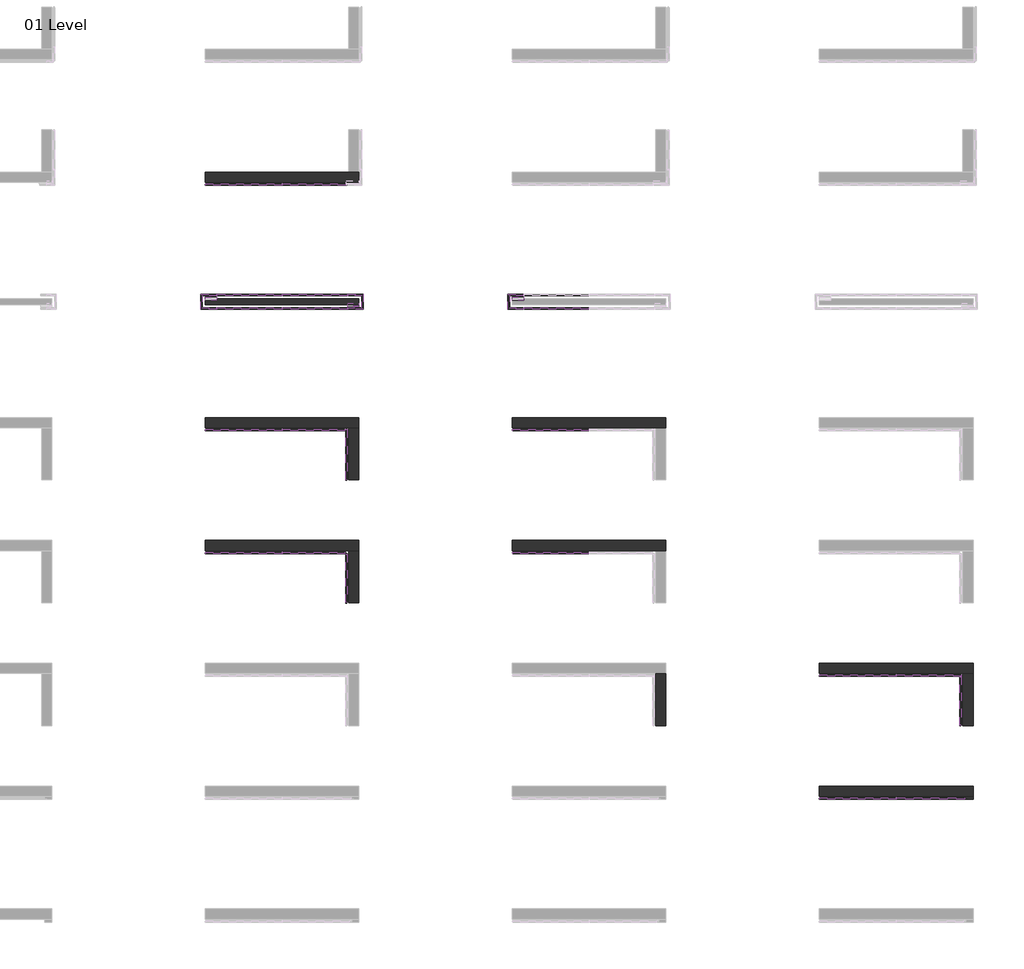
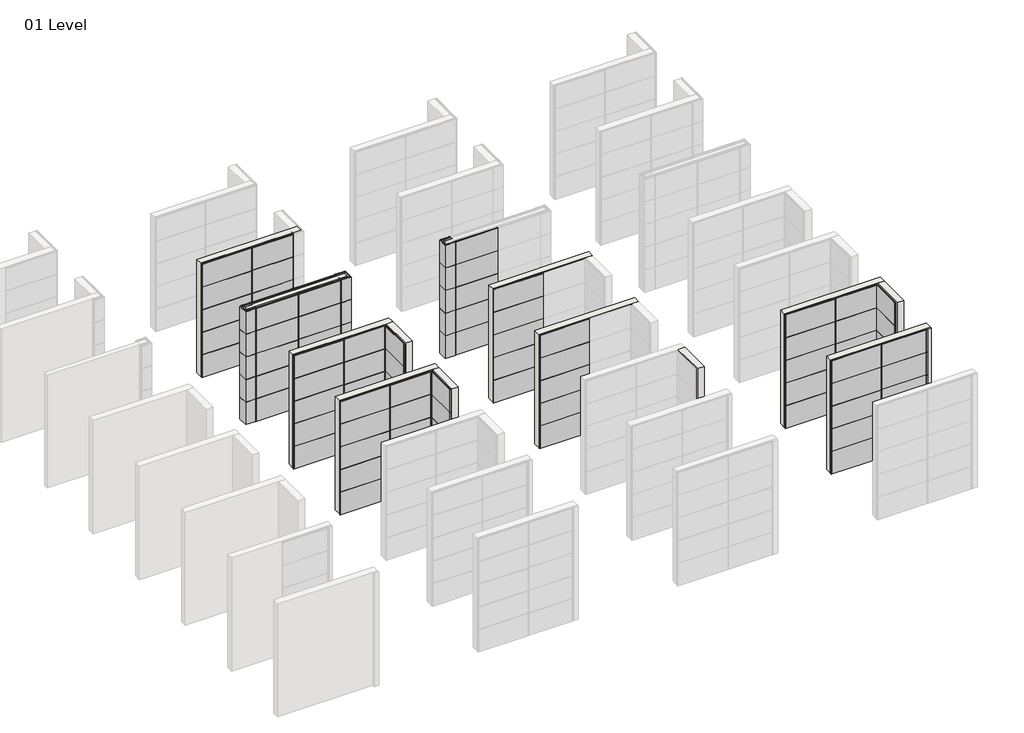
# One storey, part 3 of 9: 131 plates, 13 walls.
"""IFC4 building model written with IfcOpenShell, lengths in millimetres."""

from ifc_helpers import new_model, si_unit, frame, origin, origin_with_axes, place, context, project, spatial, polyline, outline, extrude, faceted_brep, transform, mapped, element, save
from components import plate_a6211809, plate_7b624472, plate_c233103a, plate_79a8b994, plate_4e651b4e, plate_a0341565, plate_0904af44, plate_7be3f5e4, plate_62c4d9ae, plate_5df4ee21, plate_b69234bf, plate_99067047, plate_b28a252d, plate_5372a68f, empty_system_panel_empty_90a12fe6

model = new_model("IFC4")

# Units and contexts
model_context = context("Model", 3, world=origin())
ifc_project = project(units=[si_unit("LENGTHUNIT", "METRE", prefix="MILLI")], contexts=[model_context])

# Site, building, storey
site = spatial("IfcSite", under=ifc_project)
building = spatial("IfcBuilding", under=site)
storey = spatial("IfcBuildingStorey", under=building, Name="01 Level", Elevation=0.0)

# Plates
placement = place(None, origin())
plate_shape = plate_a6211809(model_context)
element("IfcPlate", 1, ObjectType="Trimo_Qbiss Screen_Normal Panel-HORIZONTAL : HR - B-F", at=placement, inside=storey, context=model_context, shape_type="MappedRepresentation", body=[
    mapped(plate_shape, transform((-27452.2237135, -3083.2713317, 0.0), x_axis=(-1.0, 0.0, 0.0), y_axis=(0.0, -1.0, 0.0), z_axis=(0.0, 0.0, 1.0))),
])
element("IfcPlate", 2, ObjectType="Trimo_Qbiss Screen_Normal Panel-HORIZONTAL : HR - B-F", at=placement, inside=storey, context=model_context, shape_type="MappedRepresentation", body=[
    mapped(plate_shape, transform((-27452.2237135, -3083.2713317, 4800.0), x_axis=(-1.0, 0.0, 0.0), y_axis=(0.0, -1.0, 0.0), z_axis=(0.0, 0.0, 1.0))),
])
element("IfcPlate", 3, ObjectType="Trimo_Qbiss Screen_Normal Panel-HORIZONTAL : HR - B-F", at=placement, inside=storey, context=model_context, shape_type="MappedRepresentation", body=[
    mapped(plate_shape, transform((-27452.2237135, -3083.2713317, 2400.0), x_axis=(-1.0, 0.0, 0.0), y_axis=(0.0, -1.0, 0.0), z_axis=(0.0, 0.0, 1.0))),
])
element("IfcPlate", 4, ObjectType="Trimo_Qbiss Screen_Normal Panel-HORIZONTAL : HR - B-F", at=placement, inside=storey, context=model_context, shape_type="MappedRepresentation", body=[
    mapped(plate_shape, transform((-27452.2237135, -3083.2713317, 3600.0), x_axis=(-1.0, 0.0, 0.0), y_axis=(0.0, -1.0, 0.0), z_axis=(0.0, 0.0, 1.0))),
])
element("IfcPlate", 5, ObjectType="Trimo_Qbiss Screen_Normal Panel-HORIZONTAL : HR - B-F", at=placement, inside=storey, context=model_context, shape_type="MappedRepresentation", body=[
    mapped(plate_shape, transform((-27452.2237135, -3083.2713317, 1200.0), x_axis=(-1.0, 0.0, 0.0), y_axis=(0.0, -1.0, 0.0), z_axis=(0.0, 0.0, 1.0))),
])
element("IfcPlate", 6, ObjectType="Trimo_Qbiss Screen_Normal Panel-HORIZONTAL : HR - B-F", at=placement, inside=storey, context=model_context, shape_type="MappedRepresentation", body=[
    mapped(plate_shape, transform((-27452.2237135, -11083.2713317, 0.0), x_axis=(-1.0, 0.0, 0.0), y_axis=(0.0, -1.0, 0.0), z_axis=(0.0, 0.0, 1.0))),
])
element("IfcPlate", 7, ObjectType="Trimo_Qbiss Screen_Normal Panel-HORIZONTAL : HR - B-F", at=placement, inside=storey, context=model_context, shape_type="MappedRepresentation", body=[
    mapped(plate_shape, transform((-27452.2237135, -11083.2713317, 4800.0), x_axis=(-1.0, 0.0, 0.0), y_axis=(0.0, -1.0, 0.0), z_axis=(0.0, 0.0, 1.0))),
])
element("IfcPlate", 8, ObjectType="Trimo_Qbiss Screen_Normal Panel-HORIZONTAL : HR - B-F", at=placement, inside=storey, context=model_context, shape_type="MappedRepresentation", body=[
    mapped(plate_shape, transform((-27452.2237135, -11083.2713317, 2400.0), x_axis=(-1.0, 0.0, 0.0), y_axis=(0.0, -1.0, 0.0), z_axis=(0.0, 0.0, 1.0))),
])
element("IfcPlate", 9, ObjectType="Trimo_Qbiss Screen_Normal Panel-HORIZONTAL : HR - B-F", at=placement, inside=storey, context=model_context, shape_type="MappedRepresentation", body=[
    mapped(plate_shape, transform((-27452.2237135, -11083.2713317, 3600.0), x_axis=(-1.0, 0.0, 0.0), y_axis=(0.0, -1.0, 0.0), z_axis=(0.0, 0.0, 1.0))),
])
element("IfcPlate", 10, ObjectType="Trimo_Qbiss Screen_Normal Panel-HORIZONTAL : HR - B-F", at=placement, inside=storey, context=model_context, shape_type="MappedRepresentation", body=[
    mapped(plate_shape, transform((-27452.2237135, -11083.2713317, 1200.0), x_axis=(-1.0, 0.0, 0.0), y_axis=(0.0, -1.0, 0.0), z_axis=(0.0, 0.0, 1.0))),
])
element("IfcPlate", 11, ObjectType="Trimo_Qbiss Screen_Normal Panel-HORIZONTAL : HR - B-F", at=placement, inside=storey, context=model_context, shape_type="MappedRepresentation", body=[
    mapped(plate_shape, transform((-27452.2237135, -15083.2713317, 0.0), x_axis=(-1.0, 0.0, 0.0), y_axis=(0.0, -1.0, 0.0), z_axis=(0.0, 0.0, 1.0))),
])
element("IfcPlate", 12, ObjectType="Trimo_Qbiss Screen_Normal Panel-HORIZONTAL : HR - B-F", at=placement, inside=storey, context=model_context, shape_type="MappedRepresentation", body=[
    mapped(plate_shape, transform((-27452.2237135, -15083.2713317, 4800.0), x_axis=(-1.0, 0.0, 0.0), y_axis=(0.0, -1.0, 0.0), z_axis=(0.0, 0.0, 1.0))),
])
element("IfcPlate", 13, ObjectType="Trimo_Qbiss Screen_Normal Panel-HORIZONTAL : HR - B-F", at=placement, inside=storey, context=model_context, shape_type="MappedRepresentation", body=[
    mapped(plate_shape, transform((-27452.2237135, -15083.2713317, 2400.0), x_axis=(-1.0, 0.0, 0.0), y_axis=(0.0, -1.0, 0.0), z_axis=(0.0, 0.0, 1.0))),
])
element("IfcPlate", 14, ObjectType="Trimo_Qbiss Screen_Normal Panel-HORIZONTAL : HR - B-F", at=placement, inside=storey, context=model_context, shape_type="MappedRepresentation", body=[
    mapped(plate_shape, transform((-27452.2237135, -15083.2713317, 3600.0), x_axis=(-1.0, 0.0, 0.0), y_axis=(0.0, -1.0, 0.0), z_axis=(0.0, 0.0, 1.0))),
])
element("IfcPlate", 15, ObjectType="Trimo_Qbiss Screen_Normal Panel-HORIZONTAL : HR - B-F", at=placement, inside=storey, context=model_context, shape_type="MappedRepresentation", body=[
    mapped(plate_shape, transform((-27452.2237135, -15083.2713317, 1200.0), x_axis=(-1.0, 0.0, 0.0), y_axis=(0.0, -1.0, 0.0), z_axis=(0.0, 0.0, 1.0))),
])
plate_2_shape = plate_7b624472(model_context)
element("IfcPlate", 16, ObjectType="Trimo_Qbiss Screen_Normal Panel-HORIZONTAL : HR - B-F", at=placement, inside=storey, context=model_context, shape_type="MappedRepresentation", body=[
    mapped(plate_2_shape, transform((-27268.4737135, -7083.2713317, 0.0), x_axis=(-1.0, 0.0, 0.0), y_axis=(0.0, -1.0, 0.0), z_axis=(0.0, 0.0, 1.0))),
])
element("IfcPlate", 17, ObjectType="Trimo_Qbiss Screen_Normal Panel-HORIZONTAL : HR - B-F", at=placement, inside=storey, context=model_context, shape_type="MappedRepresentation", body=[
    mapped(plate_2_shape, transform((-27268.4737135, -7083.2713317, 4800.0), x_axis=(-1.0, 0.0, 0.0), y_axis=(0.0, -1.0, 0.0), z_axis=(0.0, 0.0, 1.0))),
])
element("IfcPlate", 18, ObjectType="Trimo_Qbiss Screen_Normal Panel-HORIZONTAL : HR - B-F", at=placement, inside=storey, context=model_context, shape_type="MappedRepresentation", body=[
    mapped(plate_2_shape, transform((-27268.4737135, -7083.2713317, 2400.0), x_axis=(-1.0, 0.0, 0.0), y_axis=(0.0, -1.0, 0.0), z_axis=(0.0, 0.0, 1.0))),
])
element("IfcPlate", 19, ObjectType="Trimo_Qbiss Screen_Normal Panel-HORIZONTAL : HR - B-F", at=placement, inside=storey, context=model_context, shape_type="MappedRepresentation", body=[
    mapped(plate_2_shape, transform((-27268.4737135, -7083.2713317, 3600.0), x_axis=(-1.0, 0.0, 0.0), y_axis=(0.0, -1.0, 0.0), z_axis=(0.0, 0.0, 1.0))),
])
element("IfcPlate", 20, ObjectType="Trimo_Qbiss Screen_Normal Panel-HORIZONTAL : HR - B-F", at=placement, inside=storey, context=model_context, shape_type="MappedRepresentation", body=[
    mapped(plate_2_shape, transform((-27268.4737135, -7083.2713317, 1200.0), x_axis=(-1.0, 0.0, 0.0), y_axis=(0.0, -1.0, 0.0), z_axis=(0.0, 0.0, 1.0))),
])
element("IfcPlate", 21, ObjectType="Trimo_Qbiss Screen_Normal Panel-HORIZONTAL : HR - B-F", at=placement, inside=storey, context=model_context, shape_type="MappedRepresentation", body=[
    mapped(plate_2_shape, transform((-25135.9737135, -7083.2713317, 0.0), x_axis=(-1.0, 0.0, 0.0), y_axis=(0.0, -1.0, 0.0), z_axis=(0.0, 0.0, 1.0))),
])
element("IfcPlate", 22, ObjectType="Trimo_Qbiss Screen_Normal Panel-HORIZONTAL : HR - B-F", at=placement, inside=storey, context=model_context, shape_type="MappedRepresentation", body=[
    mapped(plate_2_shape, transform((-25135.9737135, -7083.2713317, 1200.0), x_axis=(-1.0, 0.0, 0.0), y_axis=(0.0, -1.0, 0.0), z_axis=(0.0, 0.0, 1.0))),
])
element("IfcPlate", 23, ObjectType="Trimo_Qbiss Screen_Normal Panel-HORIZONTAL : HR - B-F", at=placement, inside=storey, context=model_context, shape_type="MappedRepresentation", body=[
    mapped(plate_2_shape, transform((-25135.9737135, -7083.2713317, 2400.0), x_axis=(-1.0, 0.0, 0.0), y_axis=(0.0, -1.0, 0.0), z_axis=(0.0, 0.0, 1.0))),
])
element("IfcPlate", 24, ObjectType="Trimo_Qbiss Screen_Normal Panel-HORIZONTAL : HR - B-F", at=placement, inside=storey, context=model_context, shape_type="MappedRepresentation", body=[
    mapped(plate_2_shape, transform((-25135.9737135, -7083.2713317, 3600.0), x_axis=(-1.0, 0.0, 0.0), y_axis=(0.0, -1.0, 0.0), z_axis=(0.0, 0.0, 1.0))),
])
element("IfcPlate", 25, ObjectType="Trimo_Qbiss Screen_Normal Panel-HORIZONTAL : HR - B-F", at=placement, inside=storey, context=model_context, shape_type="MappedRepresentation", body=[
    mapped(plate_2_shape, transform((-25135.9737135, -7083.2713317, 4800.0), x_axis=(-1.0, 0.0, 0.0), y_axis=(0.0, -1.0, 0.0), z_axis=(0.0, 0.0, 1.0))),
])
element("IfcPlate", 26, ObjectType="Trimo_Qbiss Screen_Normal Panel-HORIZONTAL : HR - B-F", at=placement, inside=storey, context=model_context, shape_type="MappedRepresentation", body=[
    mapped(plate_2_shape, transform((-27268.4737135, -6883.2713317, 0.0), x_axis=(1.0, 0.0, 0.0), y_axis=(0.0, 1.0, 0.0), z_axis=(0.0, 0.0, 1.0))),
])
element("IfcPlate", 27, ObjectType="Trimo_Qbiss Screen_Normal Panel-HORIZONTAL : HR - B-F", at=placement, inside=storey, context=model_context, shape_type="MappedRepresentation", body=[
    mapped(plate_2_shape, transform((-27268.4737135, -6883.2713317, 1200.0), x_axis=(1.0, 0.0, 0.0), y_axis=(0.0, 1.0, 0.0), z_axis=(0.0, 0.0, 1.0))),
])
element("IfcPlate", 28, ObjectType="Trimo_Qbiss Screen_Normal Panel-HORIZONTAL : HR - B-F", at=placement, inside=storey, context=model_context, shape_type="MappedRepresentation", body=[
    mapped(plate_2_shape, transform((-27268.4737135, -6883.2713317, 2400.0), x_axis=(1.0, 0.0, 0.0), y_axis=(0.0, 1.0, 0.0), z_axis=(0.0, 0.0, 1.0))),
])
element("IfcPlate", 29, ObjectType="Trimo_Qbiss Screen_Normal Panel-HORIZONTAL : HR - B-F", at=placement, inside=storey, context=model_context, shape_type="MappedRepresentation", body=[
    mapped(plate_2_shape, transform((-27268.4737135, -6883.2713317, 3600.0), x_axis=(1.0, 0.0, 0.0), y_axis=(0.0, 1.0, 0.0), z_axis=(0.0, 0.0, 1.0))),
])
element("IfcPlate", 30, ObjectType="Trimo_Qbiss Screen_Normal Panel-HORIZONTAL : HR - B-F", at=placement, inside=storey, context=model_context, shape_type="MappedRepresentation", body=[
    mapped(plate_2_shape, transform((-27268.4737135, -6883.2713317, 4800.0), x_axis=(1.0, 0.0, 0.0), y_axis=(0.0, 1.0, 0.0), z_axis=(0.0, 0.0, 1.0))),
])
element("IfcPlate", 31, ObjectType="Trimo_Qbiss Screen_Normal Panel-HORIZONTAL : HR - B-F", at=placement, inside=storey, context=model_context, shape_type="MappedRepresentation", body=[
    mapped(plate_2_shape, transform((-25135.9737135, -6883.2713317, 0.0), x_axis=(1.0, 0.0, 0.0), y_axis=(0.0, 1.0, 0.0), z_axis=(0.0, 0.0, 1.0))),
])
element("IfcPlate", 32, ObjectType="Trimo_Qbiss Screen_Normal Panel-HORIZONTAL : HR - B-F", at=placement, inside=storey, context=model_context, shape_type="MappedRepresentation", body=[
    mapped(plate_2_shape, transform((-25135.9737135, -6883.2713317, 1200.0), x_axis=(1.0, 0.0, 0.0), y_axis=(0.0, 1.0, 0.0), z_axis=(0.0, 0.0, 1.0))),
])
element("IfcPlate", 33, ObjectType="Trimo_Qbiss Screen_Normal Panel-HORIZONTAL : HR - B-F", at=placement, inside=storey, context=model_context, shape_type="MappedRepresentation", body=[
    mapped(plate_2_shape, transform((-25135.9737135, -6883.2713317, 2400.0), x_axis=(1.0, 0.0, 0.0), y_axis=(0.0, 1.0, 0.0), z_axis=(0.0, 0.0, 1.0))),
])
element("IfcPlate", 34, ObjectType="Trimo_Qbiss Screen_Normal Panel-HORIZONTAL : HR - B-F", at=placement, inside=storey, context=model_context, shape_type="MappedRepresentation", body=[
    mapped(plate_2_shape, transform((-25135.9737135, -6883.2713317, 3600.0), x_axis=(1.0, 0.0, 0.0), y_axis=(0.0, 1.0, 0.0), z_axis=(0.0, 0.0, 1.0))),
])
element("IfcPlate", 35, ObjectType="Trimo_Qbiss Screen_Normal Panel-HORIZONTAL : HR - B-F", at=placement, inside=storey, context=model_context, shape_type="MappedRepresentation", body=[
    mapped(plate_2_shape, transform((-25135.9737135, -6883.2713317, 4800.0), x_axis=(1.0, 0.0, 0.0), y_axis=(0.0, 1.0, 0.0), z_axis=(0.0, 0.0, 1.0))),
])
plate_3_shape = plate_c233103a(model_context)
element("IfcPlate", 36, ObjectType="Trimo_Qbiss Screen_Normal Panel-HORIZONTAL : HR - B-F", at=placement, inside=storey, context=model_context, shape_type="MappedRepresentation", body=[
    mapped(plate_3_shape, transform((-25117.2237135, -11083.2713317, 0.0), x_axis=(-1.0, 0.0, 0.0), y_axis=(0.0, -1.0, 0.0), z_axis=(0.0, 0.0, 1.0))),
])
element("IfcPlate", 37, ObjectType="Trimo_Qbiss Screen_Normal Panel-HORIZONTAL : HR - B-F", at=placement, inside=storey, context=model_context, shape_type="MappedRepresentation", body=[
    mapped(plate_3_shape, transform((-25117.2237135, -11083.2713317, 4800.0), x_axis=(-1.0, 0.0, 0.0), y_axis=(0.0, -1.0, 0.0), z_axis=(0.0, 0.0, 1.0))),
])
element("IfcPlate", 38, ObjectType="Trimo_Qbiss Screen_Normal Panel-HORIZONTAL : HR - B-F", at=placement, inside=storey, context=model_context, shape_type="MappedRepresentation", body=[
    mapped(plate_3_shape, transform((-25117.2237135, -11083.2713317, 2400.0), x_axis=(-1.0, 0.0, 0.0), y_axis=(0.0, -1.0, 0.0), z_axis=(0.0, 0.0, 1.0))),
])
element("IfcPlate", 39, ObjectType="Trimo_Qbiss Screen_Normal Panel-HORIZONTAL : HR - B-F", at=placement, inside=storey, context=model_context, shape_type="MappedRepresentation", body=[
    mapped(plate_3_shape, transform((-25117.2237135, -11083.2713317, 3600.0), x_axis=(-1.0, 0.0, 0.0), y_axis=(0.0, -1.0, 0.0), z_axis=(0.0, 0.0, 1.0))),
])
element("IfcPlate", 40, ObjectType="Trimo_Qbiss Screen_Normal Panel-HORIZONTAL : HR - B-F", at=placement, inside=storey, context=model_context, shape_type="MappedRepresentation", body=[
    mapped(plate_3_shape, transform((-25117.2237135, -11083.2713317, 1200.0), x_axis=(-1.0, 0.0, 0.0), y_axis=(0.0, -1.0, 0.0), z_axis=(0.0, 0.0, 1.0))),
])
element("IfcPlate", 41, ObjectType="Trimo_Qbiss Screen_Normal Panel-HORIZONTAL : HR - B-F", at=placement, inside=storey, context=model_context, shape_type="MappedRepresentation", body=[
    mapped(plate_3_shape, transform((-25117.2237135, -15083.2713317, 0.0), x_axis=(-1.0, 0.0, 0.0), y_axis=(0.0, -1.0, 0.0), z_axis=(0.0, 0.0, 1.0))),
])
element("IfcPlate", 42, ObjectType="Trimo_Qbiss Screen_Normal Panel-HORIZONTAL : HR - B-F", at=placement, inside=storey, context=model_context, shape_type="MappedRepresentation", body=[
    mapped(plate_3_shape, transform((-25117.2237135, -15083.2713317, 4800.0), x_axis=(-1.0, 0.0, 0.0), y_axis=(0.0, -1.0, 0.0), z_axis=(0.0, 0.0, 1.0))),
])
element("IfcPlate", 43, ObjectType="Trimo_Qbiss Screen_Normal Panel-HORIZONTAL : HR - B-F", at=placement, inside=storey, context=model_context, shape_type="MappedRepresentation", body=[
    mapped(plate_3_shape, transform((-25117.2237135, -15083.2713317, 2400.0), x_axis=(-1.0, 0.0, 0.0), y_axis=(0.0, -1.0, 0.0), z_axis=(0.0, 0.0, 1.0))),
])
element("IfcPlate", 44, ObjectType="Trimo_Qbiss Screen_Normal Panel-HORIZONTAL : HR - B-F", at=placement, inside=storey, context=model_context, shape_type="MappedRepresentation", body=[
    mapped(plate_3_shape, transform((-25117.2237135, -15083.2713317, 3600.0), x_axis=(-1.0, 0.0, 0.0), y_axis=(0.0, -1.0, 0.0), z_axis=(0.0, 0.0, 1.0))),
])
element("IfcPlate", 45, ObjectType="Trimo_Qbiss Screen_Normal Panel-HORIZONTAL : HR - B-F", at=placement, inside=storey, context=model_context, shape_type="MappedRepresentation", body=[
    mapped(plate_3_shape, transform((-25117.2237135, -15083.2713317, 1200.0), x_axis=(-1.0, 0.0, 0.0), y_axis=(0.0, -1.0, 0.0), z_axis=(0.0, 0.0, 1.0))),
])
plate_4_shape = plate_79a8b994(model_context)
element("IfcPlate", 46, ObjectType="Trimo_Qbiss Screen_Normal Panel-HORIZONTAL : HR - B-F", at=placement, inside=storey, context=model_context, shape_type="MappedRepresentation", body=[
    mapped(plate_4_shape, transform((-24032.2237135, -11933.2713317, 0.0), x_axis=(0.0, 1.0, 0.0), y_axis=(-1.0, 0.0, 0.0), z_axis=(0.0, 0.0, 1.0))),
])
element("IfcPlate", 47, ObjectType="Trimo_Qbiss Screen_Normal Panel-HORIZONTAL : HR - B-F", at=placement, inside=storey, context=model_context, shape_type="MappedRepresentation", body=[
    mapped(plate_4_shape, transform((-24032.2237135, -11933.2713317, 4800.0), x_axis=(0.0, 1.0, 0.0), y_axis=(-1.0, 0.0, 0.0), z_axis=(0.0, 0.0, 1.0))),
])
element("IfcPlate", 48, ObjectType="Trimo_Qbiss Screen_Normal Panel-HORIZONTAL : HR - B-F", at=placement, inside=storey, context=model_context, shape_type="MappedRepresentation", body=[
    mapped(plate_4_shape, transform((-24032.2237135, -11933.2713317, 2400.0), x_axis=(0.0, 1.0, 0.0), y_axis=(-1.0, 0.0, 0.0), z_axis=(0.0, 0.0, 1.0))),
])
element("IfcPlate", 49, ObjectType="Trimo_Qbiss Screen_Normal Panel-HORIZONTAL : HR - B-F", at=placement, inside=storey, context=model_context, shape_type="MappedRepresentation", body=[
    mapped(plate_4_shape, transform((-24032.2237135, -11933.2713317, 3600.0), x_axis=(0.0, 1.0, 0.0), y_axis=(-1.0, 0.0, 0.0), z_axis=(0.0, 0.0, 1.0))),
])
element("IfcPlate", 50, ObjectType="Trimo_Qbiss Screen_Normal Panel-HORIZONTAL : HR - B-F", at=placement, inside=storey, context=model_context, shape_type="MappedRepresentation", body=[
    mapped(plate_4_shape, transform((-24032.2237135, -11933.2713317, 1200.0), x_axis=(0.0, 1.0, 0.0), y_axis=(-1.0, 0.0, 0.0), z_axis=(0.0, 0.0, 1.0))),
])
plate_5_shape = plate_4e651b4e(model_context)
element("IfcPlate", 51, ObjectType="Trimo_Qbiss Screen_Normal Panel-HORIZONTAL : HR - B-F", at=placement, inside=storey, context=model_context, shape_type="MappedRepresentation", body=[
    mapped(plate_5_shape, transform((-24032.2237135, -15933.2713317, 0.0), x_axis=(0.0, 1.0, 0.0), y_axis=(-1.0, 0.0, 0.0), z_axis=(0.0, 0.0, 1.0))),
])
element("IfcPlate", 52, ObjectType="Trimo_Qbiss Screen_Normal Panel-HORIZONTAL : HR - B-F", at=placement, inside=storey, context=model_context, shape_type="MappedRepresentation", body=[
    mapped(plate_5_shape, transform((-24032.2237135, -15933.2713317, 4800.0), x_axis=(0.0, 1.0, 0.0), y_axis=(-1.0, 0.0, 0.0), z_axis=(0.0, 0.0, 1.0))),
])
element("IfcPlate", 53, ObjectType="Trimo_Qbiss Screen_Normal Panel-HORIZONTAL : HR - B-F", at=placement, inside=storey, context=model_context, shape_type="MappedRepresentation", body=[
    mapped(plate_5_shape, transform((-24032.2237135, -15933.2713317, 2400.0), x_axis=(0.0, 1.0, 0.0), y_axis=(-1.0, 0.0, 0.0), z_axis=(0.0, 0.0, 1.0))),
])
element("IfcPlate", 54, ObjectType="Trimo_Qbiss Screen_Normal Panel-HORIZONTAL : HR - B-F", at=placement, inside=storey, context=model_context, shape_type="MappedRepresentation", body=[
    mapped(plate_5_shape, transform((-24032.2237135, -15933.2713317, 3600.0), x_axis=(0.0, 1.0, 0.0), y_axis=(-1.0, 0.0, 0.0), z_axis=(0.0, 0.0, 1.0))),
])
element("IfcPlate", 55, ObjectType="Trimo_Qbiss Screen_Normal Panel-HORIZONTAL : HR - B-F", at=placement, inside=storey, context=model_context, shape_type="MappedRepresentation", body=[
    mapped(plate_5_shape, transform((-24032.2237135, -15933.2713317, 1200.0), x_axis=(0.0, 1.0, 0.0), y_axis=(-1.0, 0.0, 0.0), z_axis=(0.0, 0.0, 1.0))),
])
plate_6_shape = plate_a0341565(model_context)
element("IfcPlate", 56, ObjectType="Trimo_Qbiss Screen_Normal Panel-HORIZONTAL : HR - B-F", at=placement, inside=storey, context=model_context, shape_type="MappedRepresentation", body=[
    mapped(plate_6_shape, transform((-25158.4737135, -3083.2713317, 0.0), x_axis=(-1.0, 0.0, 0.0), y_axis=(0.0, -1.0, 0.0), z_axis=(0.0, 0.0, 1.0))),
])
element("IfcPlate", 57, ObjectType="Trimo_Qbiss Screen_Normal Panel-HORIZONTAL : HR - B-F", at=placement, inside=storey, context=model_context, shape_type="MappedRepresentation", body=[
    mapped(plate_6_shape, transform((-25158.4737135, -3083.2713317, 1200.0), x_axis=(-1.0, 0.0, 0.0), y_axis=(0.0, -1.0, 0.0), z_axis=(0.0, 0.0, 1.0))),
])
element("IfcPlate", 58, ObjectType="Trimo_Qbiss Screen_Normal Panel-HORIZONTAL : HR - B-F", at=placement, inside=storey, context=model_context, shape_type="MappedRepresentation", body=[
    mapped(plate_6_shape, transform((-25158.4737135, -3083.2713317, 2400.0), x_axis=(-1.0, 0.0, 0.0), y_axis=(0.0, -1.0, 0.0), z_axis=(0.0, 0.0, 1.0))),
])
element("IfcPlate", 59, ObjectType="Trimo_Qbiss Screen_Normal Panel-HORIZONTAL : HR - B-F", at=placement, inside=storey, context=model_context, shape_type="MappedRepresentation", body=[
    mapped(plate_6_shape, transform((-25158.4737135, -3083.2713317, 3600.0), x_axis=(-1.0, 0.0, 0.0), y_axis=(0.0, -1.0, 0.0), z_axis=(0.0, 0.0, 1.0))),
])
element("IfcPlate", 60, ObjectType="Trimo_Qbiss Screen_Normal Panel-HORIZONTAL : HR - B-F", at=placement, inside=storey, context=model_context, shape_type="MappedRepresentation", body=[
    mapped(plate_6_shape, transform((-25158.4737135, -3083.2713317, 4800.0), x_axis=(-1.0, 0.0, 0.0), y_axis=(0.0, -1.0, 0.0), z_axis=(0.0, 0.0, 1.0))),
])
plate_7_shape = plate_0904af44(model_context)
element("IfcPlate", 61, ObjectType="Trimo_Qbiss Screen_Normal Panel-HORIZONTAL : HR - FB", at=placement, inside=storey, context=model_context, shape_type="MappedRepresentation", body=[
    mapped(plate_7_shape, transform((-17452.2237135, -11083.2713317, 0.0), x_axis=(-1.0, 0.0, 0.0), y_axis=(0.0, -1.0, 0.0), z_axis=(0.0, 0.0, 1.0))),
])
element("IfcPlate", 62, ObjectType="Trimo_Qbiss Screen_Normal Panel-HORIZONTAL : HR - FB", at=placement, inside=storey, context=model_context, shape_type="MappedRepresentation", body=[
    mapped(plate_7_shape, transform((-17452.2237135, -11083.2713317, 4800.0), x_axis=(-1.0, 0.0, 0.0), y_axis=(0.0, -1.0, 0.0), z_axis=(0.0, 0.0, 1.0))),
])
element("IfcPlate", 63, ObjectType="Trimo_Qbiss Screen_Normal Panel-HORIZONTAL : HR - FB", at=placement, inside=storey, context=model_context, shape_type="MappedRepresentation", body=[
    mapped(plate_7_shape, transform((-17452.2237135, -11083.2713317, 2400.0), x_axis=(-1.0, 0.0, 0.0), y_axis=(0.0, -1.0, 0.0), z_axis=(0.0, 0.0, 1.0))),
])
element("IfcPlate", 64, ObjectType="Trimo_Qbiss Screen_Normal Panel-HORIZONTAL : HR - FB", at=placement, inside=storey, context=model_context, shape_type="MappedRepresentation", body=[
    mapped(plate_7_shape, transform((-17452.2237135, -11083.2713317, 3600.0), x_axis=(-1.0, 0.0, 0.0), y_axis=(0.0, -1.0, 0.0), z_axis=(0.0, 0.0, 1.0))),
])
element("IfcPlate", 65, ObjectType="Trimo_Qbiss Screen_Normal Panel-HORIZONTAL : HR - FB", at=placement, inside=storey, context=model_context, shape_type="MappedRepresentation", body=[
    mapped(plate_7_shape, transform((-17452.2237135, -11083.2713317, 1200.0), x_axis=(-1.0, 0.0, 0.0), y_axis=(0.0, -1.0, 0.0), z_axis=(0.0, 0.0, 1.0))),
])
element("IfcPlate", 66, ObjectType="Trimo_Qbiss Screen_Normal Panel-HORIZONTAL : HR - FB", at=placement, inside=storey, context=model_context, shape_type="MappedRepresentation", body=[
    mapped(plate_7_shape, transform((-17452.2237135, -15083.2713317, 0.0), x_axis=(-1.0, 0.0, 0.0), y_axis=(0.0, -1.0, 0.0), z_axis=(0.0, 0.0, 1.0))),
])
element("IfcPlate", 67, ObjectType="Trimo_Qbiss Screen_Normal Panel-HORIZONTAL : HR - FB", at=placement, inside=storey, context=model_context, shape_type="MappedRepresentation", body=[
    mapped(plate_7_shape, transform((-17452.2237135, -15083.2713317, 4800.0), x_axis=(-1.0, 0.0, 0.0), y_axis=(0.0, -1.0, 0.0), z_axis=(0.0, 0.0, 1.0))),
])
element("IfcPlate", 68, ObjectType="Trimo_Qbiss Screen_Normal Panel-HORIZONTAL : HR - FB", at=placement, inside=storey, context=model_context, shape_type="MappedRepresentation", body=[
    mapped(plate_7_shape, transform((-17452.2237135, -15083.2713317, 2400.0), x_axis=(-1.0, 0.0, 0.0), y_axis=(0.0, -1.0, 0.0), z_axis=(0.0, 0.0, 1.0))),
])
element("IfcPlate", 69, ObjectType="Trimo_Qbiss Screen_Normal Panel-HORIZONTAL : HR - FB", at=placement, inside=storey, context=model_context, shape_type="MappedRepresentation", body=[
    mapped(plate_7_shape, transform((-17452.2237135, -15083.2713317, 3600.0), x_axis=(-1.0, 0.0, 0.0), y_axis=(0.0, -1.0, 0.0), z_axis=(0.0, 0.0, 1.0))),
])
element("IfcPlate", 70, ObjectType="Trimo_Qbiss Screen_Normal Panel-HORIZONTAL : HR - FB", at=placement, inside=storey, context=model_context, shape_type="MappedRepresentation", body=[
    mapped(plate_7_shape, transform((-17452.2237135, -15083.2713317, 1200.0), x_axis=(-1.0, 0.0, 0.0), y_axis=(0.0, -1.0, 0.0), z_axis=(0.0, 0.0, 1.0))),
])
plate_8_shape = plate_7be3f5e4(model_context)
element("IfcPlate", 71, ObjectType="Trimo_Qbiss Screen_Normal Panel-HORIZONTAL : HR - FB", at=placement, inside=storey, context=model_context, shape_type="MappedRepresentation", body=[
    mapped(plate_8_shape, transform((-17268.4737135, -7083.2713317, 0.0), x_axis=(-1.0, 0.0, 0.0), y_axis=(0.0, -1.0, 0.0), z_axis=(0.0, 0.0, 1.0))),
])
element("IfcPlate", 72, ObjectType="Trimo_Qbiss Screen_Normal Panel-HORIZONTAL : HR - FB", at=placement, inside=storey, context=model_context, shape_type="MappedRepresentation", body=[
    mapped(plate_8_shape, transform((-17268.4737135, -7083.2713317, 4800.0), x_axis=(-1.0, 0.0, 0.0), y_axis=(0.0, -1.0, 0.0), z_axis=(0.0, 0.0, 1.0))),
])
element("IfcPlate", 73, ObjectType="Trimo_Qbiss Screen_Normal Panel-HORIZONTAL : HR - FB", at=placement, inside=storey, context=model_context, shape_type="MappedRepresentation", body=[
    mapped(plate_8_shape, transform((-17268.4737135, -7083.2713317, 2400.0), x_axis=(-1.0, 0.0, 0.0), y_axis=(0.0, -1.0, 0.0), z_axis=(0.0, 0.0, 1.0))),
])
element("IfcPlate", 74, ObjectType="Trimo_Qbiss Screen_Normal Panel-HORIZONTAL : HR - FB", at=placement, inside=storey, context=model_context, shape_type="MappedRepresentation", body=[
    mapped(plate_8_shape, transform((-17268.4737135, -7083.2713317, 3600.0), x_axis=(-1.0, 0.0, 0.0), y_axis=(0.0, -1.0, 0.0), z_axis=(0.0, 0.0, 1.0))),
])
element("IfcPlate", 75, ObjectType="Trimo_Qbiss Screen_Normal Panel-HORIZONTAL : HR - FB", at=placement, inside=storey, context=model_context, shape_type="MappedRepresentation", body=[
    mapped(plate_8_shape, transform((-17268.4737135, -7083.2713317, 1200.0), x_axis=(-1.0, 0.0, 0.0), y_axis=(0.0, -1.0, 0.0), z_axis=(0.0, 0.0, 1.0))),
])
element("IfcPlate", 76, ObjectType="Trimo_Qbiss Screen_Normal Panel-HORIZONTAL : HR - FB", at=placement, inside=storey, context=model_context, shape_type="MappedRepresentation", body=[
    mapped(plate_8_shape, transform((-17268.4737135, -6883.2713317, 0.0), x_axis=(1.0, 0.0, 0.0), y_axis=(0.0, 1.0, 0.0), z_axis=(0.0, 0.0, 1.0))),
])
plate_9_shape = plate_62c4d9ae(model_context)
element("IfcPlate", 77, ObjectType="Trimo_Qbiss Screen_Normal Panel-HORIZONTAL : HR - FB-F", at=placement, inside=storey, context=model_context, shape_type="MappedRepresentation", body=[
    mapped(plate_9_shape, transform((-7452.2237135, -19083.2713317, 0.0), x_axis=(-1.0, 0.0, 0.0), y_axis=(0.0, -1.0, 0.0), z_axis=(0.0, 0.0, 1.0))),
])
element("IfcPlate", 78, ObjectType="Trimo_Qbiss Screen_Normal Panel-HORIZONTAL : HR - FB-F", at=placement, inside=storey, context=model_context, shape_type="MappedRepresentation", body=[
    mapped(plate_9_shape, transform((-7452.2237135, -19083.2713317, 4800.0), x_axis=(-1.0, 0.0, 0.0), y_axis=(0.0, -1.0, 0.0), z_axis=(0.0, 0.0, 1.0))),
])
element("IfcPlate", 79, ObjectType="Trimo_Qbiss Screen_Normal Panel-HORIZONTAL : HR - FB-F", at=placement, inside=storey, context=model_context, shape_type="MappedRepresentation", body=[
    mapped(plate_9_shape, transform((-7452.2237135, -19083.2713317, 2400.0), x_axis=(-1.0, 0.0, 0.0), y_axis=(0.0, -1.0, 0.0), z_axis=(0.0, 0.0, 1.0))),
])
element("IfcPlate", 80, ObjectType="Trimo_Qbiss Screen_Normal Panel-HORIZONTAL : HR - FB-F", at=placement, inside=storey, context=model_context, shape_type="MappedRepresentation", body=[
    mapped(plate_9_shape, transform((-7452.2237135, -19083.2713317, 3600.0), x_axis=(-1.0, 0.0, 0.0), y_axis=(0.0, -1.0, 0.0), z_axis=(0.0, 0.0, 1.0))),
])
element("IfcPlate", 81, ObjectType="Trimo_Qbiss Screen_Normal Panel-HORIZONTAL : HR - FB-F", at=placement, inside=storey, context=model_context, shape_type="MappedRepresentation", body=[
    mapped(plate_9_shape, transform((-7452.2237135, -19083.2713317, 1200.0), x_axis=(-1.0, 0.0, 0.0), y_axis=(0.0, -1.0, 0.0), z_axis=(0.0, 0.0, 1.0))),
])
element("IfcPlate", 82, ObjectType="Trimo_Qbiss Screen_Normal Panel-HORIZONTAL : HR - FB-F", at=placement, inside=storey, context=model_context, shape_type="MappedRepresentation", body=[
    mapped(plate_9_shape, transform((-7452.2237135, -23083.2713317, 0.0), x_axis=(-1.0, 0.0, 0.0), y_axis=(0.0, -1.0, 0.0), z_axis=(0.0, 0.0, 1.0))),
])
element("IfcPlate", 83, ObjectType="Trimo_Qbiss Screen_Normal Panel-HORIZONTAL : HR - FB-F", at=placement, inside=storey, context=model_context, shape_type="MappedRepresentation", body=[
    mapped(plate_9_shape, transform((-7452.2237135, -23083.2713317, 4800.0), x_axis=(-1.0, 0.0, 0.0), y_axis=(0.0, -1.0, 0.0), z_axis=(0.0, 0.0, 1.0))),
])
element("IfcPlate", 84, ObjectType="Trimo_Qbiss Screen_Normal Panel-HORIZONTAL : HR - FB-F", at=placement, inside=storey, context=model_context, shape_type="MappedRepresentation", body=[
    mapped(plate_9_shape, transform((-7452.2237135, -23083.2713317, 2400.0), x_axis=(-1.0, 0.0, 0.0), y_axis=(0.0, -1.0, 0.0), z_axis=(0.0, 0.0, 1.0))),
])
element("IfcPlate", 85, ObjectType="Trimo_Qbiss Screen_Normal Panel-HORIZONTAL : HR - FB-F", at=placement, inside=storey, context=model_context, shape_type="MappedRepresentation", body=[
    mapped(plate_9_shape, transform((-7452.2237135, -23083.2713317, 3600.0), x_axis=(-1.0, 0.0, 0.0), y_axis=(0.0, -1.0, 0.0), z_axis=(0.0, 0.0, 1.0))),
])
element("IfcPlate", 86, ObjectType="Trimo_Qbiss Screen_Normal Panel-HORIZONTAL : HR - FB-F", at=placement, inside=storey, context=model_context, shape_type="MappedRepresentation", body=[
    mapped(plate_9_shape, transform((-7452.2237135, -23083.2713317, 1200.0), x_axis=(-1.0, 0.0, 0.0), y_axis=(0.0, -1.0, 0.0), z_axis=(0.0, 0.0, 1.0))),
])
plate_10_shape = plate_5df4ee21(model_context)
element("IfcPlate", 87, ObjectType="Trimo_Qbiss Screen_Normal Panel-HORIZONTAL : HR - FB-F", at=placement, inside=storey, context=model_context, shape_type="MappedRepresentation", body=[
    mapped(plate_10_shape, transform((-5117.2237135, -19083.2713317, 0.0), x_axis=(-1.0, 0.0, 0.0), y_axis=(0.0, -1.0, 0.0), z_axis=(0.0, 0.0, 1.0))),
])
element("IfcPlate", 88, ObjectType="Trimo_Qbiss Screen_Normal Panel-HORIZONTAL : HR - FB-F", at=placement, inside=storey, context=model_context, shape_type="MappedRepresentation", body=[
    mapped(plate_10_shape, transform((-5117.2237135, -19083.2713317, 4800.0), x_axis=(-1.0, 0.0, 0.0), y_axis=(0.0, -1.0, 0.0), z_axis=(0.0, 0.0, 1.0))),
])
element("IfcPlate", 89, ObjectType="Trimo_Qbiss Screen_Normal Panel-HORIZONTAL : HR - FB-F", at=placement, inside=storey, context=model_context, shape_type="MappedRepresentation", body=[
    mapped(plate_10_shape, transform((-5117.2237135, -19083.2713317, 2400.0), x_axis=(-1.0, 0.0, 0.0), y_axis=(0.0, -1.0, 0.0), z_axis=(0.0, 0.0, 1.0))),
])
element("IfcPlate", 90, ObjectType="Trimo_Qbiss Screen_Normal Panel-HORIZONTAL : HR - FB-F", at=placement, inside=storey, context=model_context, shape_type="MappedRepresentation", body=[
    mapped(plate_10_shape, transform((-5117.2237135, -19083.2713317, 3600.0), x_axis=(-1.0, 0.0, 0.0), y_axis=(0.0, -1.0, 0.0), z_axis=(0.0, 0.0, 1.0))),
])
element("IfcPlate", 91, ObjectType="Trimo_Qbiss Screen_Normal Panel-HORIZONTAL : HR - FB-F", at=placement, inside=storey, context=model_context, shape_type="MappedRepresentation", body=[
    mapped(plate_10_shape, transform((-5117.2237135, -19083.2713317, 1200.0), x_axis=(-1.0, 0.0, 0.0), y_axis=(0.0, -1.0, 0.0), z_axis=(0.0, 0.0, 1.0))),
])
plate_11_shape = plate_b69234bf(model_context)
element("IfcPlate", 92, ObjectType="Trimo_Qbiss Screen_Normal Panel-HORIZONTAL : HR - FB-F", at=placement, inside=storey, context=model_context, shape_type="MappedRepresentation", body=[
    mapped(plate_11_shape, transform((-5067.2237135, -23083.2713317, 0.0), x_axis=(-1.0, 0.0, 0.0), y_axis=(0.0, -1.0, 0.0), z_axis=(0.0, 0.0, 1.0))),
])
element("IfcPlate", 93, ObjectType="Trimo_Qbiss Screen_Normal Panel-HORIZONTAL : HR - FB-F", at=placement, inside=storey, context=model_context, shape_type="MappedRepresentation", body=[
    mapped(plate_11_shape, transform((-5067.2237135, -23083.2713317, 4800.0), x_axis=(-1.0, 0.0, 0.0), y_axis=(0.0, -1.0, 0.0), z_axis=(0.0, 0.0, 1.0))),
])
element("IfcPlate", 94, ObjectType="Trimo_Qbiss Screen_Normal Panel-HORIZONTAL : HR - FB-F", at=placement, inside=storey, context=model_context, shape_type="MappedRepresentation", body=[
    mapped(plate_11_shape, transform((-5067.2237135, -23083.2713317, 2400.0), x_axis=(-1.0, 0.0, 0.0), y_axis=(0.0, -1.0, 0.0), z_axis=(0.0, 0.0, 1.0))),
])
element("IfcPlate", 95, ObjectType="Trimo_Qbiss Screen_Normal Panel-HORIZONTAL : HR - FB-F", at=placement, inside=storey, context=model_context, shape_type="MappedRepresentation", body=[
    mapped(plate_11_shape, transform((-5067.2237135, -23083.2713317, 3600.0), x_axis=(-1.0, 0.0, 0.0), y_axis=(0.0, -1.0, 0.0), z_axis=(0.0, 0.0, 1.0))),
])
element("IfcPlate", 96, ObjectType="Trimo_Qbiss Screen_Normal Panel-HORIZONTAL : HR - FB-F", at=placement, inside=storey, context=model_context, shape_type="MappedRepresentation", body=[
    mapped(plate_11_shape, transform((-5067.2237135, -23083.2713317, 1200.0), x_axis=(-1.0, 0.0, 0.0), y_axis=(0.0, -1.0, 0.0), z_axis=(0.0, 0.0, 1.0))),
])
plate_12_shape = plate_99067047(model_context)
element("IfcPlate", 97, ObjectType="Trimo_Qbiss Screen_Normal Panel-HORIZONTAL : HR - FB-F", at=placement, inside=storey, context=model_context, shape_type="MappedRepresentation", body=[
    mapped(plate_12_shape, transform((-4032.2237135, -19933.2713317, 0.0), x_axis=(0.0, 1.0, 0.0), y_axis=(-1.0, 0.0, 0.0), z_axis=(0.0, 0.0, 1.0))),
])
element("IfcPlate", 98, ObjectType="Trimo_Qbiss Screen_Normal Panel-HORIZONTAL : HR - FB-F", at=placement, inside=storey, context=model_context, shape_type="MappedRepresentation", body=[
    mapped(plate_12_shape, transform((-4032.2237135, -19933.2713317, 4800.0), x_axis=(0.0, 1.0, 0.0), y_axis=(-1.0, 0.0, 0.0), z_axis=(0.0, 0.0, 1.0))),
])
element("IfcPlate", 99, ObjectType="Trimo_Qbiss Screen_Normal Panel-HORIZONTAL : HR - FB-F", at=placement, inside=storey, context=model_context, shape_type="MappedRepresentation", body=[
    mapped(plate_12_shape, transform((-4032.2237135, -19933.2713317, 2400.0), x_axis=(0.0, 1.0, 0.0), y_axis=(-1.0, 0.0, 0.0), z_axis=(0.0, 0.0, 1.0))),
])
element("IfcPlate", 100, ObjectType="Trimo_Qbiss Screen_Normal Panel-HORIZONTAL : HR - FB-F", at=placement, inside=storey, context=model_context, shape_type="MappedRepresentation", body=[
    mapped(plate_12_shape, transform((-4032.2237135, -19933.2713317, 3600.0), x_axis=(0.0, 1.0, 0.0), y_axis=(-1.0, 0.0, 0.0), z_axis=(0.0, 0.0, 1.0))),
])
element("IfcPlate", 101, ObjectType="Trimo_Qbiss Screen_Normal Panel-HORIZONTAL : HR - FB-F", at=placement, inside=storey, context=model_context, shape_type="MappedRepresentation", body=[
    mapped(plate_12_shape, transform((-4032.2237135, -19933.2713317, 1200.0), x_axis=(0.0, 1.0, 0.0), y_axis=(-1.0, 0.0, 0.0), z_axis=(0.0, 0.0, 1.0))),
])
plate_13_shape = plate_b28a252d(model_context)
element("IfcPlate", 102, ObjectType="Trimo_Qbiss Screen_U Corner Panel-HORIZONTAL : HR - B-F", at=placement, inside=storey, context=model_context, shape_type="MappedRepresentation", body=[
    mapped(plate_13_shape, transform((-28518.4737135, -7083.2713317, 0.0), x_axis=(-1.0, 0.0, 0.0), y_axis=(0.0, -1.0, 0.0), z_axis=(0.0, 0.0, 1.0))),
])
element("IfcPlate", 103, ObjectType="Trimo_Qbiss Screen_U Corner Panel-HORIZONTAL : HR - B-F", at=placement, inside=storey, context=model_context, shape_type="MappedRepresentation", body=[
    mapped(plate_13_shape, transform((-28518.4737135, -7083.2713317, 1200.0), x_axis=(-1.0, 0.0, 0.0), y_axis=(0.0, -1.0, 0.0), z_axis=(0.0, 0.0, 1.0))),
])
element("IfcPlate", 104, ObjectType="Trimo_Qbiss Screen_U Corner Panel-HORIZONTAL : HR - B-F", at=placement, inside=storey, context=model_context, shape_type="MappedRepresentation", body=[
    mapped(plate_13_shape, transform((-28518.4737135, -7083.2713317, 2400.0), x_axis=(-1.0, 0.0, 0.0), y_axis=(0.0, -1.0, 0.0), z_axis=(0.0, 0.0, 1.0))),
])
element("IfcPlate", 105, ObjectType="Trimo_Qbiss Screen_U Corner Panel-HORIZONTAL : HR - B-F", at=placement, inside=storey, context=model_context, shape_type="MappedRepresentation", body=[
    mapped(plate_13_shape, transform((-28518.4737135, -7083.2713317, 3600.0), x_axis=(-1.0, 0.0, 0.0), y_axis=(0.0, -1.0, 0.0), z_axis=(0.0, 0.0, 1.0))),
])
element("IfcPlate", 106, ObjectType="Trimo_Qbiss Screen_U Corner Panel-HORIZONTAL : HR - B-F", at=placement, inside=storey, context=model_context, shape_type="MappedRepresentation", body=[
    mapped(plate_13_shape, transform((-28518.4737135, -7083.2713317, 4800.0), x_axis=(-1.0, 0.0, 0.0), y_axis=(0.0, -1.0, 0.0), z_axis=(0.0, 0.0, 1.0))),
])
element("IfcPlate", 107, ObjectType="Trimo_Qbiss Screen_U Corner Panel-HORIZONTAL : HR - B-F", at=placement, inside=storey, context=model_context, shape_type="MappedRepresentation", body=[
    mapped(plate_13_shape, transform((-23885.9737135, -6883.2713317, 0.0), x_axis=(1.0, 0.0, 0.0), y_axis=(0.0, 1.0, 0.0), z_axis=(0.0, 0.0, 1.0))),
])
element("IfcPlate", 108, ObjectType="Trimo_Qbiss Screen_U Corner Panel-HORIZONTAL : HR - B-F", at=placement, inside=storey, context=model_context, shape_type="MappedRepresentation", body=[
    mapped(plate_13_shape, transform((-23885.9737135, -6883.2713317, 1200.0), x_axis=(1.0, 0.0, 0.0), y_axis=(0.0, 1.0, 0.0), z_axis=(0.0, 0.0, 1.0))),
])
element("IfcPlate", 109, ObjectType="Trimo_Qbiss Screen_U Corner Panel-HORIZONTAL : HR - B-F", at=placement, inside=storey, context=model_context, shape_type="MappedRepresentation", body=[
    mapped(plate_13_shape, transform((-23885.9737135, -6883.2713317, 2400.0), x_axis=(1.0, 0.0, 0.0), y_axis=(0.0, 1.0, 0.0), z_axis=(0.0, 0.0, 1.0))),
])
element("IfcPlate", 110, ObjectType="Trimo_Qbiss Screen_U Corner Panel-HORIZONTAL : HR - B-F", at=placement, inside=storey, context=model_context, shape_type="MappedRepresentation", body=[
    mapped(plate_13_shape, transform((-23885.9737135, -6883.2713317, 3600.0), x_axis=(1.0, 0.0, 0.0), y_axis=(0.0, 1.0, 0.0), z_axis=(0.0, 0.0, 1.0))),
])
element("IfcPlate", 111, ObjectType="Trimo_Qbiss Screen_U Corner Panel-HORIZONTAL : HR - B-F", at=placement, inside=storey, context=model_context, shape_type="MappedRepresentation", body=[
    mapped(plate_13_shape, transform((-23885.9737135, -6883.2713317, 4800.0), x_axis=(1.0, 0.0, 0.0), y_axis=(0.0, 1.0, 0.0), z_axis=(0.0, 0.0, 1.0))),
])
plate_14_shape = plate_5372a68f(model_context)
element("IfcPlate", 112, ObjectType="Trimo_Qbiss Screen_U Corner Panel-HORIZONTAL : HR - FB", at=placement, inside=storey, context=model_context, shape_type="MappedRepresentation", body=[
    mapped(plate_14_shape, transform((-18518.4737135, -7083.2713317, 0.0), x_axis=(-1.0, 0.0, 0.0), y_axis=(0.0, -1.0, 0.0), z_axis=(0.0, 0.0, 1.0))),
])
element("IfcPlate", 113, ObjectType="Trimo_Qbiss Screen_U Corner Panel-HORIZONTAL : HR - FB", at=placement, inside=storey, context=model_context, shape_type="MappedRepresentation", body=[
    mapped(plate_14_shape, transform((-18518.4737135, -7083.2713317, 1200.0), x_axis=(-1.0, 0.0, 0.0), y_axis=(0.0, -1.0, 0.0), z_axis=(0.0, 0.0, 1.0))),
])
element("IfcPlate", 114, ObjectType="Trimo_Qbiss Screen_U Corner Panel-HORIZONTAL : HR - FB", at=placement, inside=storey, context=model_context, shape_type="MappedRepresentation", body=[
    mapped(plate_14_shape, transform((-18518.4737135, -7083.2713317, 2400.0), x_axis=(-1.0, 0.0, 0.0), y_axis=(0.0, -1.0, 0.0), z_axis=(0.0, 0.0, 1.0))),
])
element("IfcPlate", 115, ObjectType="Trimo_Qbiss Screen_U Corner Panel-HORIZONTAL : HR - FB", at=placement, inside=storey, context=model_context, shape_type="MappedRepresentation", body=[
    mapped(plate_14_shape, transform((-18518.4737135, -7083.2713317, 3600.0), x_axis=(-1.0, 0.0, 0.0), y_axis=(0.0, -1.0, 0.0), z_axis=(0.0, 0.0, 1.0))),
])
element("IfcPlate", 116, ObjectType="Trimo_Qbiss Screen_U Corner Panel-HORIZONTAL : HR - FB", at=placement, inside=storey, context=model_context, shape_type="MappedRepresentation", body=[
    mapped(plate_14_shape, transform((-18518.4737135, -7083.2713317, 4800.0), x_axis=(-1.0, 0.0, 0.0), y_axis=(0.0, -1.0, 0.0), z_axis=(0.0, 0.0, 1.0))),
])
empty_system_panel_empty_shape = empty_system_panel_empty_90a12fe6(model_context)
element("IfcPlate", 117, ObjectType="Empty System Panel : Empty", at=placement, inside=storey, context=model_context, shape_type="MappedRepresentation", body=[
    mapped(empty_system_panel_empty_shape, transform((-23885.9737135, -7083.2713317, 0.0), x_axis=(-1.0, 0.0, 0.0), y_axis=(0.0, -1.0, 0.0), z_axis=(0.0, 0.0, 1.0))),
])
element("IfcPlate", 118, ObjectType="Empty System Panel : Empty", at=placement, inside=storey, context=model_context, shape_type="MappedRepresentation", body=[
    mapped(empty_system_panel_empty_shape, transform((-23885.9737135, -7083.2713317, 4800.0), x_axis=(-1.0, 0.0, 0.0), y_axis=(0.0, -1.0, 0.0), z_axis=(0.0, 0.0, 1.0))),
])
element("IfcPlate", 119, ObjectType="Empty System Panel : Empty", at=placement, inside=storey, context=model_context, shape_type="MappedRepresentation", body=[
    mapped(empty_system_panel_empty_shape, transform((-23885.9737135, -7083.2713317, 2400.0), x_axis=(-1.0, 0.0, 0.0), y_axis=(0.0, -1.0, 0.0), z_axis=(0.0, 0.0, 1.0))),
])
element("IfcPlate", 120, ObjectType="Empty System Panel : Empty", at=placement, inside=storey, context=model_context, shape_type="MappedRepresentation", body=[
    mapped(empty_system_panel_empty_shape, transform((-23885.9737135, -7083.2713317, 3600.0), x_axis=(-1.0, 0.0, 0.0), y_axis=(0.0, -1.0, 0.0), z_axis=(0.0, 0.0, 1.0))),
])
element("IfcPlate", 121, ObjectType="Empty System Panel : Empty", at=placement, inside=storey, context=model_context, shape_type="MappedRepresentation", body=[
    mapped(empty_system_panel_empty_shape, transform((-23885.9737135, -7083.2713317, 1200.0), x_axis=(-1.0, 0.0, 0.0), y_axis=(0.0, -1.0, 0.0), z_axis=(0.0, 0.0, 1.0))),
])
element("IfcPlate", 122, ObjectType="Empty System Panel : Empty", at=placement, inside=storey, context=model_context, shape_type="MappedRepresentation", body=[
    mapped(empty_system_panel_empty_shape, transform((-28518.4737135, -6883.2713317, 0.0), x_axis=(1.0, 0.0, 0.0), y_axis=(0.0, 1.0, 0.0), z_axis=(0.0, 0.0, 1.0))),
])
element("IfcPlate", 123, ObjectType="Empty System Panel : Empty", at=placement, inside=storey, context=model_context, shape_type="MappedRepresentation", body=[
    mapped(empty_system_panel_empty_shape, transform((-28518.4737135, -6883.2713317, 4800.0), x_axis=(1.0, 0.0, 0.0), y_axis=(0.0, 1.0, 0.0), z_axis=(0.0, 0.0, 1.0))),
])
element("IfcPlate", 124, ObjectType="Empty System Panel : Empty", at=placement, inside=storey, context=model_context, shape_type="MappedRepresentation", body=[
    mapped(empty_system_panel_empty_shape, transform((-28518.4737135, -6883.2713317, 2400.0), x_axis=(1.0, 0.0, 0.0), y_axis=(0.0, 1.0, 0.0), z_axis=(0.0, 0.0, 1.0))),
])
element("IfcPlate", 125, ObjectType="Empty System Panel : Empty", at=placement, inside=storey, context=model_context, shape_type="MappedRepresentation", body=[
    mapped(empty_system_panel_empty_shape, transform((-28518.4737135, -6883.2713317, 3600.0), x_axis=(1.0, 0.0, 0.0), y_axis=(0.0, 1.0, 0.0), z_axis=(0.0, 0.0, 1.0))),
])
element("IfcPlate", 126, ObjectType="Empty System Panel : Empty", at=placement, inside=storey, context=model_context, shape_type="MappedRepresentation", body=[
    mapped(empty_system_panel_empty_shape, transform((-28518.4737135, -6883.2713317, 1200.0), x_axis=(1.0, 0.0, 0.0), y_axis=(0.0, 1.0, 0.0), z_axis=(0.0, 0.0, 1.0))),
])
element("IfcPlate", 127, ObjectType="Empty System Panel : Empty", at=placement, inside=storey, context=model_context, shape_type="MappedRepresentation", body=[
    mapped(empty_system_panel_empty_shape, transform((-18518.4737135, -6883.2713317, 0.0), x_axis=(1.0, 0.0, 0.0), y_axis=(0.0, 1.0, 0.0), z_axis=(0.0, 0.0, 1.0))),
])
element("IfcPlate", 128, ObjectType="Empty System Panel : Empty", at=placement, inside=storey, context=model_context, shape_type="MappedRepresentation", body=[
    mapped(empty_system_panel_empty_shape, transform((-18518.4737135, -6883.2713317, 4800.0), x_axis=(1.0, 0.0, 0.0), y_axis=(0.0, 1.0, 0.0), z_axis=(0.0, 0.0, 1.0))),
])
element("IfcPlate", 129, ObjectType="Empty System Panel : Empty", at=placement, inside=storey, context=model_context, shape_type="MappedRepresentation", body=[
    mapped(empty_system_panel_empty_shape, transform((-18518.4737135, -6883.2713317, 2400.0), x_axis=(1.0, 0.0, 0.0), y_axis=(0.0, 1.0, 0.0), z_axis=(0.0, 0.0, 1.0))),
])
element("IfcPlate", 130, ObjectType="Empty System Panel : Empty", at=placement, inside=storey, context=model_context, shape_type="MappedRepresentation", body=[
    mapped(empty_system_panel_empty_shape, transform((-18518.4737135, -6883.2713317, 3600.0), x_axis=(1.0, 0.0, 0.0), y_axis=(0.0, 1.0, 0.0), z_axis=(0.0, 0.0, 1.0))),
])
element("IfcPlate", 131, ObjectType="Empty System Panel : Empty", at=placement, inside=storey, context=model_context, shape_type="MappedRepresentation", body=[
    mapped(empty_system_panel_empty_shape, transform((-18518.4737135, -6883.2713317, 1200.0), x_axis=(1.0, 0.0, 0.0), y_axis=(0.0, 1.0, 0.0), z_axis=(0.0, 0.0, 1.0))),
])

# Walls
element("IfcWall", 132, ObjectType="Wall - Showcase Project Wall - 330", at=placement, inside=storey, context=model_context, shape_type="Brep", body=[
    faceted_brep([(-23702.2237135, -10753.2713317, 0.0), (-28702.2237135, -10753.2713317, 0.0), (-28702.2237135, -10753.2713317, 6000.0), (-23702.2237135, -10753.2713317, 6000.0), (-23702.2237135, -11083.2713317, 0.0), (-23702.2237135, -11083.2713317, 6000.0), (-24032.2237135, -11083.2713317, 6000.0), (-28702.2237135, -11083.2713317, 6000.0), (-28702.2237135, -11083.2713317, 0.0), (-24032.2237135, -11083.2713317, 0.0)], [[[0, 1, 2, 3]], [[4, 5, 6, 7, 8, 9]], [[1, 0, 4, 9, 8]], [[2, 1, 8, 7]], [[3, 2, 7, 6, 5]], [[0, 3, 5, 4]]]),
])
element("IfcWall", 133, ObjectType="Wall - Showcase Project Wall - 330", at=placement, inside=storey, context=model_context, shape_type="SweptSolid", body=[
    extrude(outline(polyline([(-24032.2237135, -12783.2713317), (-24032.2237135, -11083.2713317), (-23702.2237135, -11083.2713317), (-23702.2237135, -12783.2713317), (-24032.2237135, -12783.2713317)])), origin_with_axes(), (0.0, 0.0, 1.0), 6000.0),
])
element("IfcWall", 134, ObjectType="Wall - Showcase Project Wall - 330", at=placement, inside=storey, context=model_context, shape_type="Brep", body=[
    faceted_brep([(-23702.2237135, -14753.2713317, 0.0), (-28702.2237135, -14753.2713317, 0.0), (-28702.2237135, -14753.2713317, 6000.0), (-23702.2237135, -14753.2713317, 6000.0), (-23702.2237135, -15083.2713317, 0.0), (-23702.2237135, -15083.2713317, 6000.0), (-24032.2237135, -15083.2713317, 6000.0), (-28702.2237135, -15083.2713317, 6000.0), (-28702.2237135, -15083.2713317, 0.0), (-24032.2237135, -15083.2713317, 0.0)], [[[0, 1, 2, 3]], [[4, 5, 6, 7, 8, 9]], [[1, 0, 4, 9, 8]], [[2, 1, 8, 7]], [[3, 2, 7, 6, 5]], [[0, 3, 5, 4]]]),
])
element("IfcWall", 135, ObjectType="Wall - Showcase Project Wall - 330", at=placement, inside=storey, context=model_context, shape_type="SweptSolid", body=[
    extrude(outline(polyline([(-24032.2237135, -16783.2713317), (-24032.2237135, -15083.2713317), (-23702.2237135, -15083.2713317), (-23702.2237135, -16783.2713317), (-24032.2237135, -16783.2713317)])), origin_with_axes(), (0.0, 0.0, 1.0), 6000.0),
])
element("IfcWall", 136, ObjectType="Wall - Showcase Project Wall - 330", at=placement, inside=storey, context=model_context, shape_type="Brep", body=[
    faceted_brep([(-23702.2237135, -2753.2713317, 0.0), (-24032.2237135, -2753.2713317, 0.0), (-28702.2237135, -2753.2713317, 0.0), (-28702.2237135, -2753.2713317, 6000.0), (-24032.2237135, -2753.2713317, 6000.0), (-23702.2237135, -2753.2713317, 6000.0), (-23702.2237135, -3083.2713317, 0.0), (-23702.2237135, -3083.2713317, 6000.0), (-28702.2237135, -3083.2713317, 6000.0), (-28702.2237135, -3083.2713317, 0.0)], [[[0, 1, 2, 3, 4, 5]], [[6, 7, 8, 9]], [[2, 1, 0, 6, 9]], [[3, 2, 9, 8]], [[5, 4, 3, 8, 7]], [[0, 5, 7, 6]]]),
])
element("IfcWall", 137, ObjectType="Wall - Showcase Project Wall - 200", at=placement, inside=storey, context=model_context, shape_type="SweptSolid", body=[
    extrude(outline(polyline([(-28702.2237135, -6883.2713317), (-23702.2237135, -6883.2713317), (-23702.2237135, -7083.2713317), (-28702.2237135, -7083.2713317), (-28702.2237135, -6883.2713317)])), origin_with_axes(), (0.0, 0.0, 1.0), 6000.0),
])
element("IfcWall", 138, ObjectType="Wall - Showcase Project Wall - 330", at=placement, inside=storey, context=model_context, shape_type="Brep", body=[
    faceted_brep([(-13702.2237135, -10753.2713317, 0.0), (-18702.2237135, -10753.2713317, 0.0), (-18702.2237135, -10753.2713317, 6000.0), (-13702.2237135, -10753.2713317, 6000.0), (-13702.2237135, -11083.2713317, 0.0), (-13702.2237135, -11083.2713317, 6000.0), (-14032.2237135, -11083.2713317, 6000.0), (-18702.2237135, -11083.2713317, 6000.0), (-18702.2237135, -11083.2713317, 0.0), (-14032.2237135, -11083.2713317, 0.0)], [[[0, 1, 2, 3]], [[4, 5, 6, 7, 8, 9]], [[1, 0, 4, 9, 8]], [[2, 1, 8, 7]], [[3, 2, 7, 6, 5]], [[0, 3, 5, 4]]]),
])
element("IfcWall", 139, ObjectType="Wall - Showcase Project Wall - 330", at=placement, inside=storey, context=model_context, shape_type="Brep", body=[
    faceted_brep([(-13702.2237135, -14753.2713317, 0.0), (-18702.2237135, -14753.2713317, 0.0), (-18702.2237135, -14753.2713317, 6000.0), (-13702.2237135, -14753.2713317, 6000.0), (-13702.2237135, -15083.2713317, 0.0), (-13702.2237135, -15083.2713317, 6000.0), (-14032.2237135, -15083.2713317, 6000.0), (-18702.2237135, -15083.2713317, 6000.0), (-18702.2237135, -15083.2713317, 0.0), (-14032.2237135, -15083.2713317, 0.0)], [[[0, 1, 2, 3]], [[4, 5, 6, 7, 8, 9]], [[1, 0, 4, 9, 8]], [[2, 1, 8, 7]], [[3, 2, 7, 6, 5]], [[0, 3, 5, 4]]]),
])
element("IfcWall", 140, ObjectType="Wall - Showcase Project Wall - 330", at=placement, inside=storey, context=model_context, shape_type="SweptSolid", body=[
    extrude(outline(polyline([(-14032.2237135, -20783.2713317), (-14032.2237135, -19083.2713317), (-13702.2237135, -19083.2713317), (-13702.2237135, -20783.2713317), (-14032.2237135, -20783.2713317)])), origin_with_axes(), (0.0, 0.0, 1.0), 6000.0),
])
element("IfcWall", 141, ObjectType="Wall - Showcase Project Wall - 330", at=placement, inside=storey, context=model_context, shape_type="Brep", body=[
    faceted_brep([(-3702.2237135, -18753.2713317, 0.0), (-8702.2237135, -18753.2713317, 0.0), (-8702.2237135, -18753.2713317, 6000.0), (-3702.2237135, -18753.2713317, 6000.0), (-3702.2237135, -19083.2713317, 0.0), (-3702.2237135, -19083.2713317, 6000.0), (-4032.2237135, -19083.2713317, 6000.0), (-8702.2237135, -19083.2713317, 6000.0), (-8702.2237135, -19083.2713317, 0.0), (-4032.2237135, -19083.2713317, 0.0)], [[[0, 1, 2, 3]], [[4, 5, 6, 7, 8, 9]], [[1, 0, 4, 9, 8]], [[2, 1, 8, 7]], [[3, 2, 7, 6, 5]], [[0, 3, 5, 4]]]),
])
element("IfcWall", 142, ObjectType="Wall - Showcase Project Wall - 330", at=placement, inside=storey, context=model_context, shape_type="SweptSolid", body=[
    extrude(outline(polyline([(-4032.2237135, -20783.2713317), (-4032.2237135, -19083.2713317), (-3702.2237135, -19083.2713317), (-3702.2237135, -20783.2713317), (-4032.2237135, -20783.2713317)])), origin_with_axes(), (0.0, 0.0, 1.0), 6000.0),
])
element("IfcWall", 143, ObjectType="Wall - Showcase Project Wall - 330", at=placement, inside=storey, context=model_context, shape_type="Brep", body=[
    faceted_brep([(-3702.2237135, -22753.2713317, 0.0), (-8702.2237135, -22753.2713317, 0.0), (-8702.2237135, -22753.2713317, 6000.0), (-3702.2237135, -22753.2713317, 6000.0), (-3702.2237135, -23083.2713317, 0.0), (-3702.2237135, -23083.2713317, 6000.0), (-3932.2237135, -23083.2713317, 6000.0), (-8702.2237135, -23083.2713317, 6000.0), (-8702.2237135, -23083.2713317, 0.0), (-3932.2237135, -23083.2713317, 0.0)], [[[0, 1, 2, 3]], [[4, 5, 6, 7, 8, 9]], [[1, 0, 4, 9, 8]], [[2, 1, 8, 7]], [[3, 2, 7, 6, 5]], [[0, 3, 5, 4]]]),
])
element("IfcWall", 144, ObjectType="Wall - Showcase Project Wall - 230", at=placement, inside=storey, context=model_context, shape_type="SweptSolid", body=[
    extrude(outline(polyline([(6000.0, -3932.2237135), (0.0, -3932.2237135), (0.0, -3732.2237135), (0.0, -3702.2237135), (6000.0, -3702.2237135), (6000.0, -3932.2237135)])), frame((0.0, -23176.4713317, 0.0), z_axis=(0.0, 1.0, 0.0), x_axis=(0.0, 0.0, 1.0)), (0.0, 0.0, 1.0), 93.2),
])

save(model, "model.ifc")
